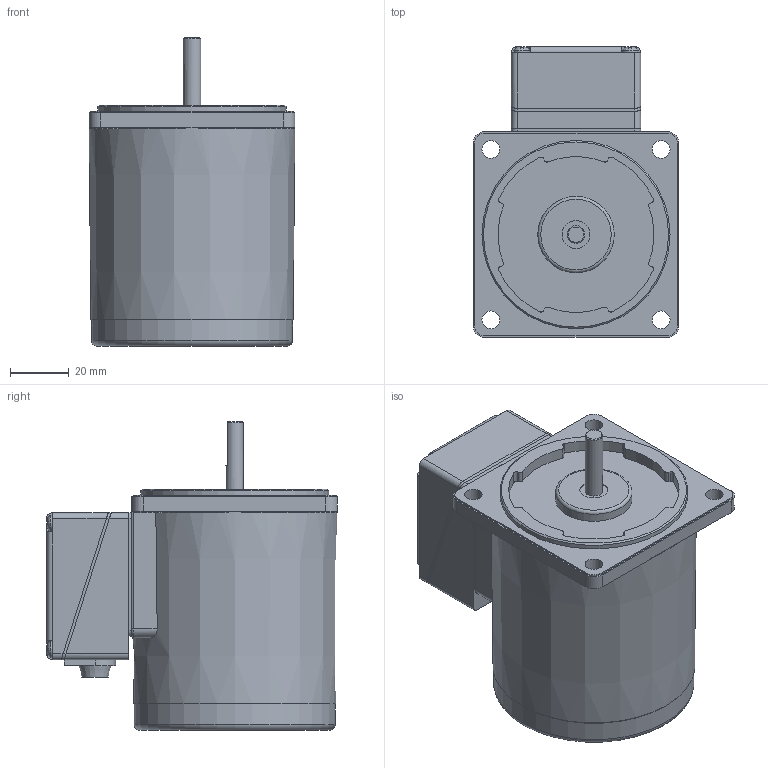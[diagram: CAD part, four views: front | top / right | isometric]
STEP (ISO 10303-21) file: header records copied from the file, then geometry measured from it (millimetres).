
FILE_DESCRIPTION (( 'STEP AP214' ), '1' );
FILE_NAME ('7IDD¤±-15-T.STEP', '2025-01-13T01:45:23', ( '' ), ( '' ), 'SwSTEP 2.0', 'SolidWorks 2024', '' );
FILE_SCHEMA (( 'AUTOMOTIVE_DESIGN' ));
Length unit declared in the file: millimetre
Products named in the file (3): TB6070; 7IDDㅁ-15-T; 7IDDㅁ-15
Assembly tree (2 placements, depth 2):
  7IDDㅁ-15-T
    7IDDㅁ-15
    TB6070
Bounding box: 70 x 99 x 105 mm (x, y, z)
Volume: 375373 mm3; surface area: 53481.2 mm2
Topology: 7 solids, 7 shells, 246 faces, 620 edges, 401 vertices
Faces by surface type: plane 138, cylinder 84, bspline 11, torus 9, cone 4
Full cylindrical faces by diameter (mm): 5.5 x4, 6 x6, 7 x1, 9.5 x1, 10 x5, 26 x1, 34.5 x1, 64 x1, 68.4 x1
Entity records: 7626 total; most frequent: CARTESIAN_POINT 1853, DIRECTION 1150, ORIENTED_EDGE 1142, EDGE_CURVE 571, AXIS2_PLACEMENT_3D 418, VERTEX_POINT 389, VECTOR 314, LINE 314
